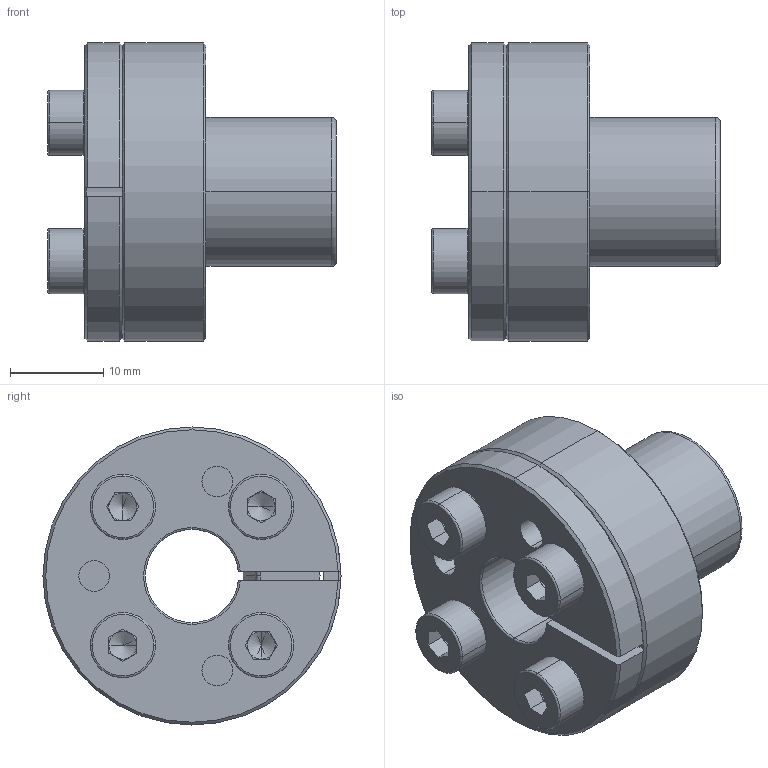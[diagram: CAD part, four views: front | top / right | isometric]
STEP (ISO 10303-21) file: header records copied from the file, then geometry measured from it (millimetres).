
FILE_DESCRIPTION (( 'STEP AP203' ), '1' );
FILE_NAME ('SAPL-T-10-16.STEP', '2016-09-21T11:35:22', ( '' ), ( '' ), 'SwSTEP 2.0', 'SolidWorks 2015', '' );
FILE_SCHEMA (( 'CONFIG_CONTROL_DESIGN' ));
Length unit declared in the file: millimetre
Products named in the file (1): SAPL-T-10-16
Bounding box: 31 x 32 x 32 mm (x, y, z)
Volume: 10201.9 mm3; surface area: 7969.9 mm2
Topology: 1 solids, 1 shells, 214 faces, 509 edges, 302 vertices
Faces by surface type: plane 72, cylinder 68, torus 42, cone 32
Entity records: 6283 total; most frequent: DIRECTION 1172, CARTESIAN_POINT 1114, ORIENTED_EDGE 1002, EDGE_CURVE 501, AXIS2_PLACEMENT_3D 480, VERTEX_POINT 302, CIRCLE 265, EDGE_LOOP 245
